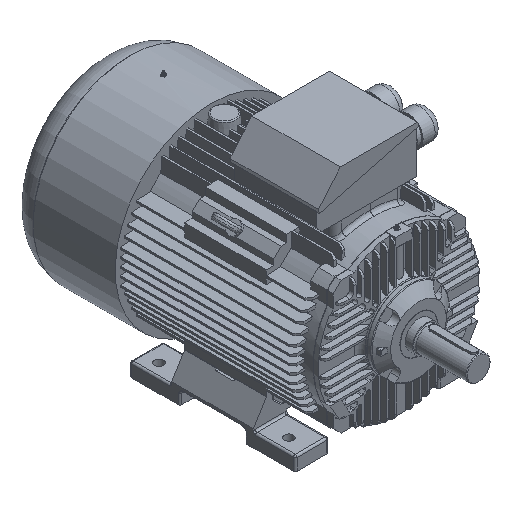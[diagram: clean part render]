
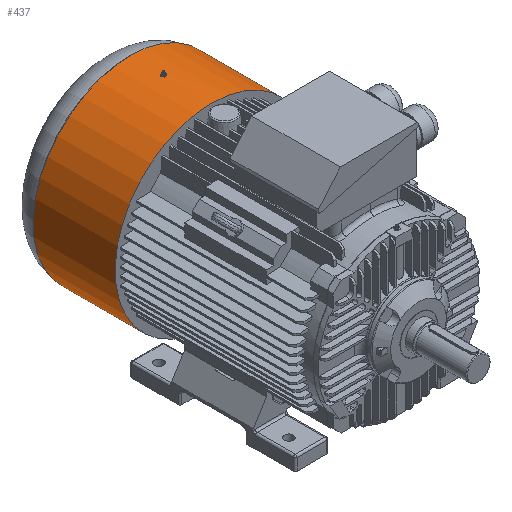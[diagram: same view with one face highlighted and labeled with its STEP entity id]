
A CAD part, isometric view. The second image highlights one B-rep face of the part: STEP entity #437.
In plain terms, the highlighted cylindrical face has radius 260 mm (diameter 520 mm), a partial arc.
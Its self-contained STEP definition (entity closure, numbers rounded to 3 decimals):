
#437 = ADVANCED_FACE( '', ( #2060, #2061 ), #2062, .T. );
#2060 = FACE_BOUND( '', #8128, .T. );
#2061 = FACE_OUTER_BOUND( '', #8129, .T. );
#2062 = CYLINDRICAL_SURFACE( '', #8130, 260. );
#8128 = EDGE_LOOP( '', ( #16590, #16591, #16592, #16593, #16594, #16595 ) );
#8129 = EDGE_LOOP( '', ( #16596, #16597, #16598, #16599 ) );
#8130 = AXIS2_PLACEMENT_3D( '', #16600, #16601, #16602 );
#16590 = ORIENTED_EDGE( '', *, *, #25185, .F. );
#16591 = ORIENTED_EDGE( '', *, *, #25183, .F. );
#16592 = ORIENTED_EDGE( '', *, *, #25181, .F. );
#16593 = ORIENTED_EDGE( '', *, *, #25164, .F. );
#16594 = ORIENTED_EDGE( '', *, *, #25161, .F. );
#16595 = ORIENTED_EDGE( '', *, *, #25168, .F. );
#16596 = ORIENTED_EDGE( '', *, *, #24889, .F. );
#16597 = ORIENTED_EDGE( '', *, *, #25211, .T. );
#16598 = ORIENTED_EDGE( '', *, *, #25842, .T. );
#16599 = ORIENTED_EDGE( '', *, *, #24892, .F. );
#16600 = CARTESIAN_POINT( '', ( 0., 810.001, 0. ) );
#16601 = DIRECTION( '', ( 0., 1., 0. ) );
#16602 = DIRECTION( '', ( 0., 0., 1. ) );
#24889 = EDGE_CURVE( '', #28279, #28281, #28282, .T. );
#24892 = EDGE_CURVE( '', #28281, #28286, #28287, .T. );
#25161 = EDGE_CURVE( '', #28808, #28810, #28811, .T. );
#25164 = EDGE_CURVE( '', #28810, #28815, #28816, .T. );
#25168 = EDGE_CURVE( '', #28821, #28808, #28823, .T. );
#25181 = EDGE_CURVE( '', #28815, #28846, #28847, .T. );
#25183 = EDGE_CURVE( '', #28846, #28849, #28850, .T. );
#25185 = EDGE_CURVE( '', #28849, #28821, #28852, .T. );
#25211 = EDGE_CURVE( '', #28279, #28895, #28897, .T. );
#25842 = EDGE_CURVE( '', #28895, #28286, #29975, .T. );
#28279 = VERTEX_POINT( '', #33936 );
#28281 = VERTEX_POINT( '', #33938 );
#28282 = LINE( '', #33939, #33940 );
#28286 = VERTEX_POINT( '', #33945 );
#28287 = CIRCLE( '', #33946, 260. );
#28808 = VERTEX_POINT( '', #34837 );
#28810 = VERTEX_POINT( '', #34840 );
#28811 = ELLIPSE( '', #34841, 520., 260. );
#28815 = VERTEX_POINT( '', #34850 );
#28816 = CIRCLE( '', #34851, 260. );
#28821 = VERTEX_POINT( '', #34864 );
#28823 = ELLIPSE( '', #34867, 520., 260. );
#28846 = VERTEX_POINT( '', #34911 );
#28847 = ELLIPSE( '', #34912, 520., 260. );
#28849 = VERTEX_POINT( '', #34915 );
#28850 = ELLIPSE( '', #34916, 520., 260. );
#28852 = CIRCLE( '', #34919, 260. );
#28895 = VERTEX_POINT( '', #35184 );
#28897 = CIRCLE( '', #35186, 260. );
#29975 = LINE( '', #38533, #38534 );
#33936 = CARTESIAN_POINT( '', ( 105.318, 709., -237.714 ) );
#33938 = CARTESIAN_POINT( '', ( 105.318, 488., -237.714 ) );
#33939 = CARTESIAN_POINT( '', ( 105.318, 810.001, -237.714 ) );
#33940 = VECTOR( '', #46989, 1000. );
#33945 = CARTESIAN_POINT( '', ( -105.318, 488., -237.714 ) );
#33946 = AXIS2_PLACEMENT_3D( '', #46994, #46995, #46996 );
#34837 = CARTESIAN_POINT( '', ( 6.351, 618., 259.922 ) );
#34840 = CARTESIAN_POINT( '', ( 3.175, 623.5, 259.981 ) );
#34841 = AXIS2_PLACEMENT_3D( '', #47419, #47420, #47421 );
#34850 = CARTESIAN_POINT( '', ( -3.175, 623.5, 259.981 ) );
#34851 = AXIS2_PLACEMENT_3D( '', #47423, #47424, #47425 );
#34864 = CARTESIAN_POINT( '', ( 3.175, 612.5, 259.981 ) );
#34867 = AXIS2_PLACEMENT_3D( '', #47428, #47429, #47430 );
#34911 = CARTESIAN_POINT( '', ( -6.351, 618., 259.922 ) );
#34912 = AXIS2_PLACEMENT_3D( '', #47451, #47452, #47453 );
#34915 = CARTESIAN_POINT( '', ( -3.175, 612.5, 259.981 ) );
#34916 = AXIS2_PLACEMENT_3D( '', #47455, #47456, #47457 );
#34919 = AXIS2_PLACEMENT_3D( '', #47459, #47460, #47461 );
#35184 = CARTESIAN_POINT( '', ( -105.318, 709., -237.714 ) );
#35186 = AXIS2_PLACEMENT_3D( '', #47510, #47511, #47512 );
#38533 = CARTESIAN_POINT( '', ( -105.318, 1153.949, -237.714 ) );
#38534 = VECTOR( '', #48585, 1000. );
#46989 = DIRECTION( '', ( 0., -1., 0. ) );
#46994 = CARTESIAN_POINT( '', ( 0., 488., 0. ) );
#46995 = DIRECTION( '', ( 0., -1., 0. ) );
#46996 = DIRECTION( '', ( 1., 0., 0. ) );
#47419 = CARTESIAN_POINT( '', ( 0., 629., 0. ) );
#47420 = DIRECTION( '', ( -0.866, -0.5, 0. ) );
#47421 = DIRECTION( '', ( 0.5, -0.866, 0. ) );
#47423 = CARTESIAN_POINT( '', ( 0., 623.5, 0. ) );
#47424 = DIRECTION( '', ( 0., -1., 0. ) );
#47425 = DIRECTION( '', ( 0., 0., -1. ) );
#47428 = CARTESIAN_POINT( '', ( 0., 607., 0. ) );
#47429 = DIRECTION( '', ( -0.866, 0.5, 0. ) );
#47430 = DIRECTION( '', ( -0.5, -0.866, 0. ) );
#47451 = CARTESIAN_POINT( '', ( 0., 629., 0. ) );
#47452 = DIRECTION( '', ( 0.866, -0.5, 0. ) );
#47453 = DIRECTION( '', ( -0.5, -0.866, 0. ) );
#47455 = CARTESIAN_POINT( '', ( 0., 607., 0. ) );
#47456 = DIRECTION( '', ( 0.866, 0.5, 0. ) );
#47457 = DIRECTION( '', ( 0.5, -0.866, 0. ) );
#47459 = CARTESIAN_POINT( '', ( 0., 612.5, 0. ) );
#47460 = DIRECTION( '', ( 0., 1., 0. ) );
#47461 = DIRECTION( '', ( 0., 0., 1. ) );
#47510 = CARTESIAN_POINT( '', ( 0., 709., 0. ) );
#47511 = DIRECTION( '', ( 0., -1., 0. ) );
#47512 = DIRECTION( '', ( 0., 0., 1. ) );
#48585 = DIRECTION( '', ( 0., -1., 0. ) );
